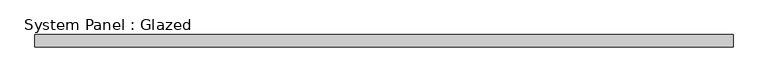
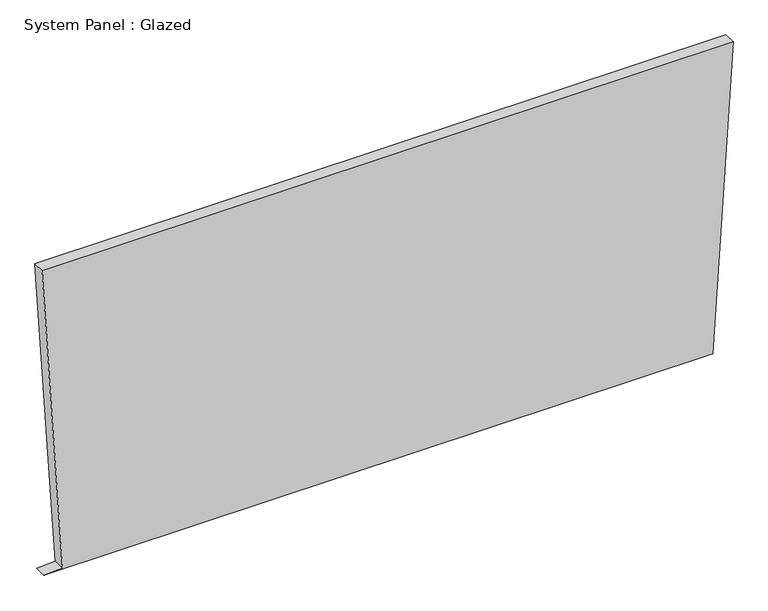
"""IFC4 building model written with IfcOpenShell, lengths in millimetres: plate geometry, System Panel : Glazed."""

from ifc_helpers import new_model, si_unit, frame, origin, place, context, project, spatial, polyline, outline, extrude, source, transform, mapped, element, save


def system_panel_glazed_624191a1(model_context):
    return source(origin(), model_context, "Body", "SweptSolid", [
        extrude(outline(polyline([(0.000237, -708.0636012), (0.0, 669.8877273), (664.4921596, 711.8406086), (664.4921596, -711.8406086), (2.4009104, -670.0393094), (0.000237, -708.0636012)])), frame((0.0, 19.05, 0.0), z_axis=(0.0, 1.0, 0.0), x_axis=(0.0, 0.0, 1.0)), (0.0, 0.0, 1.0), 25.4),
    ])


if __name__ == "__main__":
    model = new_model("IFC4")
    model_context = context("Model", 3, world=origin())
    ifc_project = project(units=[si_unit("LENGTHUNIT", "METRE", prefix="MILLI")], contexts=[model_context])
    site = spatial("IfcSite", under=ifc_project)
    building = spatial("IfcBuilding", under=site)
    placement = place(None, origin())
    system_panel_glazed_shape = system_panel_glazed_624191a1(model_context)
    element("IfcPlate", 1, ObjectType="System Panel : Glazed", at=placement, inside=building, context=model_context, shape_type="MappedRepresentation", body=[
        mapped(system_panel_glazed_shape, transform((0.0, 0.0, 0.0), x_axis=(1.0, 0.0, 0.0), y_axis=(0.0, 1.0, 0.0), z_axis=(0.0, 0.0, 1.0))),
    ])
    save(model, "model.ifc")
